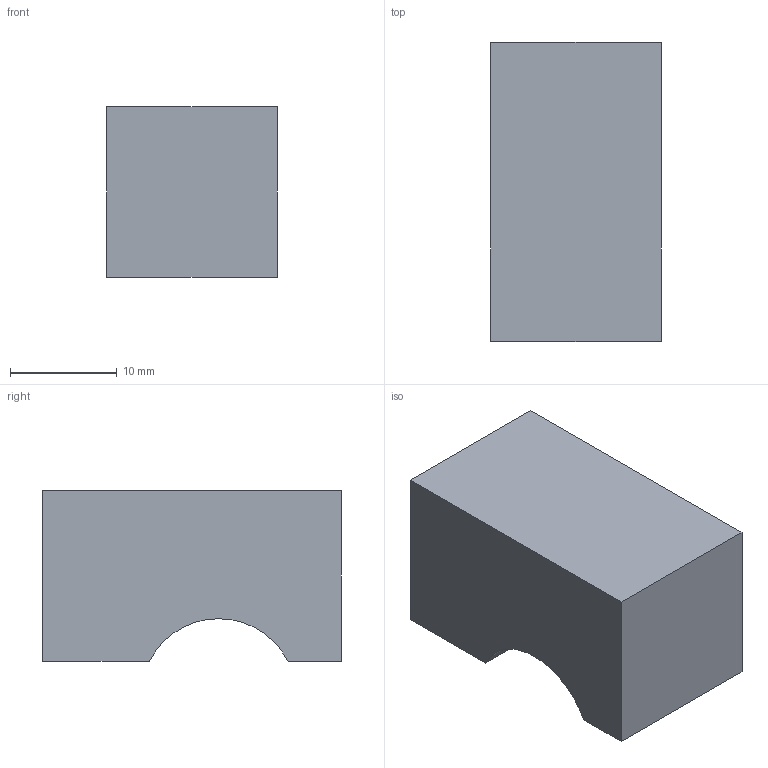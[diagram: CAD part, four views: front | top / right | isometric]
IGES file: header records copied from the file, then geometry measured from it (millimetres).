
Start section: Data from Parasolid IGES Translator 15.0.47, Copyright(c) 2006 Siemens P LM Software. All Rights Reserved.
Global section: file name: 9208070.igs; native system:  By UGS Corp.; preprocessor: XPlus GENERIC/IGES 3.0; author: Noname; organization: Noname; date: 20160217.173118; units: millimetre
Bounding box: 16 x 28 x 16 mm (x, y, z)
Surface area: 2404.4 mm2 (no closed solid volume)
Topology: 0 solids, 0 shells, 11 faces, 48 edges, 48 vertices
Faces by surface type: extrusion 8, revolution 3
